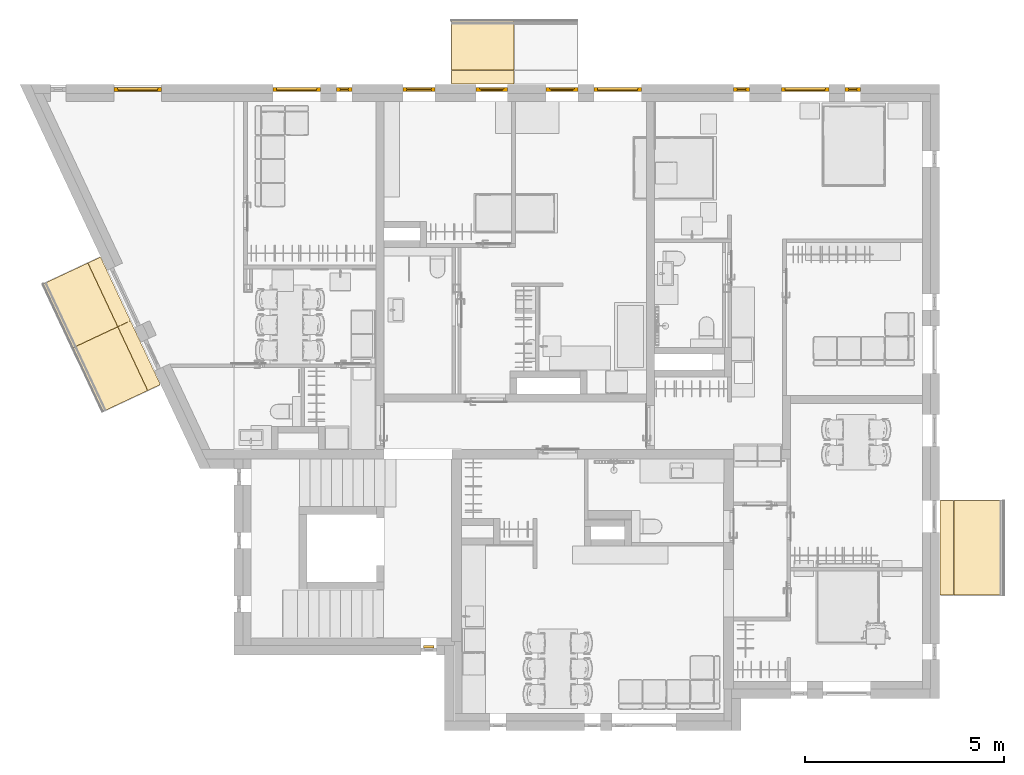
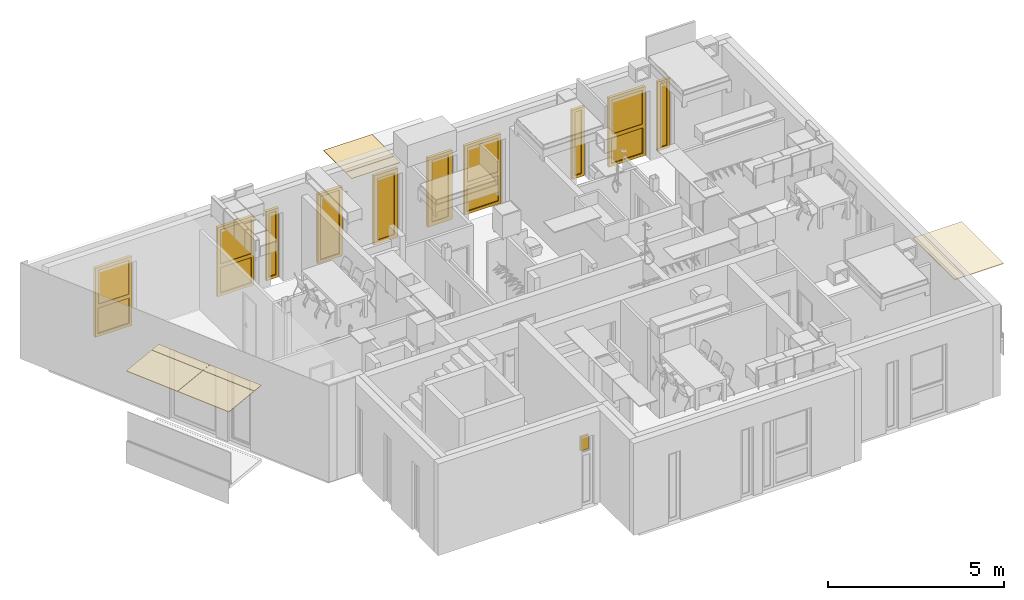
# One storey, part 13 of 68: 11 windows, 7 coverings.
"""IFC2X3 building model written with IfcOpenShell, lengths in millimetres."""

from ifc_helpers import new_model, entity, si_unit, converted_unit, direction, frame, frame_2d, origin, origin_2d_with_axis, place, context, subcontext, project, spatial, polyline, rectangle, outline, extrude, faceted_brep, source, transform, mapped, material, material_list, layer, layer_set, layer_usage, type_object, type_shapes, element, save


model = new_model("IFC2X3")

# Units and contexts
model_context = context("Model", 3, precision=0.01, world=origin(), true_north=direction((6.123233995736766e-17, 1.0)))
plan_context = context("Plan", 3, precision=0.01, world=origin(), true_north=direction((6.123233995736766e-17, 1.0)))
body_context = subcontext(model_context, "Body", "Model", "MODEL_VIEW")
ifc_project = project(units=[si_unit("LENGTHUNIT", "METRE", prefix="MILLI"), converted_unit("PLANEANGLEUNIT", "DEGREE", entity("IfcPlaneAngleMeasure", 0.017453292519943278), si_unit("PLANEANGLEUNIT", "RADIAN"), dimensions=[0, 0, 0, 0, 0, 0, 0]), si_unit("AREAUNIT", "SQUARE_METRE")], contexts=[model_context, plan_context])

# Site, building, storey
site_placement = place(None, origin())
site = spatial("IfcSite", under=ifc_project, at=site_placement, Name="Default", CompositionType="ELEMENT")
building_placement = place(site_placement, origin())
building = spatial("IfcBuilding", under=site, at=building_placement, CompositionType="ELEMENT")
storey_placement = place(building_placement, frame((0.0, 0.0, 6295.0)))
storey = spatial("IfcBuildingStorey", under=building, at=storey_placement, Name="3K", CompositionType="ELEMENT", Elevation=6294.999999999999)

# Windows
ifc_material_1 = material(Name="_K. Klaas. Pakett")
ifc_material_2 = material(Name="_K. Avatäited. Raam. PVC. RAL9005")
ifc_material_3 = material(Name="_K. Avatäited. Raam. PVC. Valge")
ifc_material_list_1 = material_list([ifc_material_1, ifc_material_2, ifc_material_3])
window_style_1 = type_object("IfcWindowStyle", Name="HR_Window_Generic_Rectangle_1x2:A-13.1200x2400.P", ConstructionType="NOTDEFINED", OperationType="NOTDEFINED", ParameterTakesPrecedence=False, Sizeable=False, material=ifc_material_list_1)
shared_shape_1 = source(origin(), body_context, "Body", "Brep", [
    faceted_brep([(78.0, -154.0, 2322.0), (1122.0, -154.0, 2322.0), (1122.0, -154.0, 1101.0), (78.0, -154.0, 1101.0), (1122.0, -179.0, 2322.0), (1122.0, -179.0, 1101.0), (78.0, -179.0, 1101.0), (78.0, -179.0, 2322.0)], [[[0, 1, 2, 3]], [[2, 1, 4, 5]], [[3, 2, 5, 6]], [[0, 3, 6, 7]], [[7, 6, 5, 4]], [[1, 0, 7, 4]]]),
    faceted_brep([(1122.0, -154.0, 2322.0), (1122.0, -154.0, 1101.0), (1122.0, -179.0, 1101.0), (1122.0, -179.0, 2322.0), (1142.0, -134.0, 2342.0), (58.0, -134.0, 2342.0), (58.0, -194.0, 2342.0), (1142.0, -194.0, 2342.0), (98.0, -154.0, 2302.0), (98.0, -134.0, 2302.0), (1102.0, -134.0, 2302.0), (1102.0, -154.0, 2302.0), (98.0, -179.0, 2302.0), (98.0, -194.0, 2302.0), (98.0, -194.0, 1121.0), (98.0, -179.0, 1121.0), (1142.0, -134.0, 1081.0), (1142.0, -194.0, 1081.0), (58.0, -194.0, 1081.0), (58.0, -134.0, 1081.0), (1102.0, -194.0, 2302.0), (1102.0, -194.0, 1121.0), (98.0, -134.0, 1121.0), (1102.0, -134.0, 1121.0), (98.0, -154.0, 1121.0), (1102.0, -154.0, 1121.0), (78.0, -154.0, 1101.0), (78.0, -179.0, 1101.0), (78.0, -154.0, 2322.0), (78.0, -179.0, 2322.0), (1102.0, -179.0, 2302.0), (1102.0, -179.0, 1121.0)], [[[0, 1, 2, 3]], [[4, 5, 6, 7]], [[8, 9, 10, 11]], [[12, 13, 14, 15]], [[16, 17, 18, 19]], [[4, 7, 17, 16]], [[13, 20, 21, 14], [7, 6, 18, 17]], [[6, 5, 19, 18]], [[5, 4, 16, 19], [10, 9, 22, 23]], [[9, 8, 24, 22]], [[25, 23, 22, 24]], [[11, 10, 23, 25]], [[1, 26, 27, 2]], [[26, 28, 29, 27]], [[28, 26, 1, 0], [8, 11, 25, 24]], [[28, 0, 3, 29]], [[20, 30, 31, 21]], [[21, 31, 15, 14]], [[29, 3, 2, 27], [30, 12, 15, 31]], [[13, 12, 30, 20]]], outer=[[True], [True], [True], [True], [True], [True], [False, True], [True], [True, False], [True], [True], [True], [True], [True], [True, False], [True], [True], [True], [True, False], [True]]),
    faceted_brep([(88.0, -194.0, 989.0), (1112.0, -194.0, 989.0), (1112.0, -194.0, 108.0), (88.0, -194.0, 108.0), (1142.0, -194.0, 1019.0), (58.0, -194.0, 1019.0), (58.0, -194.0, 78.0), (1142.0, -194.0, 78.0), (88.0, -159.0, 989.0), (88.0, -159.0, 108.0), (1112.0, -159.0, 108.0), (1142.0, -159.0, 1019.0), (1142.0, -159.0, 78.0), (58.0, -159.0, 78.0), (58.0, -159.0, 1019.0), (1112.0, -159.0, 989.0)], [[[0, 1, 2, 3], [4, 5, 6, 7]], [[8, 0, 3, 9]], [[9, 3, 2, 10]], [[11, 12, 13, 14], [15, 8, 9, 10]], [[1, 15, 10, 2]], [[6, 5, 14, 13]], [[7, 6, 13, 12]], [[4, 7, 12, 11]], [[15, 1, 0, 8]], [[5, 4, 11, 14]]], outer=[[False, True], [True], [True], [True, False], [True], [True], [True], [True], [True], [True]]),
    faceted_brep([(1142.0, -159.0, 1019.0), (58.0, -159.0, 1019.0), (58.0, -159.0, 78.0), (1142.0, -159.0, 78.0), (58.0, -134.0, 1019.0), (58.0, -134.0, 78.0), (1142.0, -134.0, 78.0), (1142.0, -134.0, 1019.0)], [[[0, 1, 2, 3]], [[2, 1, 4, 5]], [[3, 2, 5, 6]], [[0, 3, 6, 7]], [[7, 6, 5, 4]], [[1, 0, 7, 4]]]),
    faceted_brep([(58.0, -134.0, 2342.0), (58.0, -134.0, 1081.0), (1142.0, -134.0, 1081.0), (1142.0, -134.0, 2342.0), (88.0, -134.0, 2312.0), (1112.0, -134.0, 2312.0), (1112.0, -134.0, 1111.0), (88.0, -134.0, 1111.0), (1142.0, -134.0, 1019.0), (1142.0, -134.0, 78.0), (1142.0, -194.0, 78.0), (1142.0, -194.0, 1019.0), (58.0, -134.0, 78.0), (58.0, -134.0, 1019.0), (58.0, -194.0, 1019.0), (58.0, -194.0, 78.0), (1112.0, -100.0, 108.0), (88.0, -100.0, 108.0), (88.0, -134.0, 108.0), (1112.0, -134.0, 108.0), (88.0, -100.0, 989.0), (88.0, -134.0, 989.0), (1112.0, -100.0, 989.0), (1112.0, -134.0, 989.0), (1200.0, -194.0, 2400.0), (0.0, -194.0, 2400.0), (0.0, -194.0, 30.0), (1200.0, -194.0, 30.0), (58.0, -194.0, 2342.0), (1142.0, -194.0, 2342.0), (1142.0, -194.0, 1081.0), (58.0, -194.0, 1081.0), (0.0, -100.0, 2400.0), (0.0, -100.0, 30.0), (0.0, -110.0, 30.0), (0.0, -110.0, 0.0), (0.0, -184.0, 0.0), (0.0, -184.0, 30.0), (1200.0, -184.0, 30.0), (1200.0, -100.0, 2400.0), (1200.0, -184.0, 0.0), (1200.0, -110.0, 0.0), (1200.0, -110.0, 30.0), (1200.0, -100.0, 30.0), (88.0, -100.0, 2312.0), (88.0, -100.0, 1111.0), (1112.0, -100.0, 1111.0), (1112.0, -100.0, 2312.0)], [[[0, 1, 2, 3], [4, 5, 6, 7]], [[8, 9, 10, 11]], [[12, 13, 14, 15]], [[9, 12, 15, 10]], [[16, 17, 18, 19]], [[17, 20, 21, 18]], [[22, 16, 19, 23]], [[11, 10, 15, 14], [24, 25, 26, 27], [28, 29, 30, 31]], [[25, 32, 33, 34, 35, 36, 37, 26]], [[37, 38, 27, 26]], [[39, 24, 27, 38, 40, 41, 42, 43]], [[17, 16, 22, 20], [32, 39, 43, 33], [44, 45, 46, 47]], [[42, 34, 33, 43]], [[34, 42, 41, 35]], [[35, 41, 40, 36]], [[38, 37, 36, 40]], [[25, 24, 39, 32]], [[44, 47, 5, 4]], [[47, 46, 6, 5]], [[45, 44, 4, 7]], [[0, 3, 29, 28]], [[3, 2, 30, 29]], [[13, 8, 11, 14]], [[1, 0, 28, 31]], [[2, 1, 31, 30]], [[46, 45, 7, 6]], [[20, 22, 23, 21]], [[9, 8, 13, 12], [19, 18, 21, 23]]], outer=[[True, False], [True], [True], [True], [True], [True], [True], [False, True, False], [True], [True], [True], [False, True, False], [True], [True], [True], [True], [True], [True], [True], [True], [True], [True], [True], [True], [True], [True], [True], [True, False]]),
])
type_shapes(window_style_1, [shared_shape_1])
for number, where in (
    (1, (-3455.0, 15850.0, 0.0)),
    (2, (545.0, 15850.0, 0.0)),
    (3, (8625.0, 15850.0, 0.0)),
    (4, (13345.0, 15850.0, 0.0)),
):
    element("IfcWindow", number, at=place(storey_placement, frame(where)), inside=storey, type_object=window_style_1, material=ifc_material_list_1, Name="HR_Window_Generic_Rectangle_1x2:A-13.1200x2400.P", ObjectType="HR_Window_Generic_Rectangle_1x2:A-13.1200x2400.P", OverallHeight=2465.0000000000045, OverallWidth=1200.0000000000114, context=body_context, shape_type="MappedRepresentation", body=[
        mapped(shared_shape_1, transform((0.0, 0.0, 0.0), scale=1.0)),
    ])
ifc_material_list_2 = material_list([ifc_material_3, ifc_material_1, ifc_material_2])
window_style_2 = type_object("IfcWindowStyle", Name="HR_Window_Generic_Rectangle_1x1:A-01.400x2400.ma", ConstructionType="NOTDEFINED", OperationType="NOTDEFINED", ParameterTakesPrecedence=False, Sizeable=False, material=ifc_material_list_2)
shared_shape_2 = source(origin(), body_context, "Body", "Brep", [
    faceted_brep([(88.0, -194.0, 2312.0), (312.0, -194.0, 2312.0), (312.0, -194.0, 108.0), (88.0, -194.0, 108.0), (342.0, -194.0, 2342.0), (58.0, -194.0, 2342.0), (58.0, -194.0, 78.0), (342.0, -194.0, 78.0), (88.0, -159.0, 2312.0), (88.0, -159.0, 108.0), (312.0, -159.0, 108.0), (342.0, -159.0, 2342.0), (342.0, -159.0, 78.0), (58.0, -159.0, 78.0), (58.0, -159.0, 2342.0), (312.0, -159.0, 2312.0)], [[[0, 1, 2, 3], [4, 5, 6, 7]], [[8, 0, 3, 9]], [[9, 3, 2, 10]], [[11, 12, 13, 14], [15, 8, 9, 10]], [[1, 15, 10, 2]], [[6, 5, 14, 13]], [[7, 6, 13, 12]], [[4, 7, 12, 11]], [[15, 1, 0, 8]], [[5, 4, 11, 14]]], outer=[[False, True], [True], [True], [True, False], [True], [True], [True], [True], [True], [True]]),
    faceted_brep([(342.0, -159.0, 2342.0), (58.0, -159.0, 2342.0), (58.0, -159.0, 78.0), (342.0, -159.0, 78.0), (58.0, -134.0, 2342.0), (58.0, -134.0, 78.0), (342.0, -134.0, 78.0), (342.0, -134.0, 2342.0)], [[[0, 1, 2, 3]], [[2, 1, 4, 5]], [[3, 2, 5, 6]], [[0, 3, 6, 7]], [[7, 6, 5, 4]], [[1, 0, 7, 4]]]),
    faceted_brep([(342.0, -134.0, 78.0), (58.0, -134.0, 78.0), (58.0, -194.0, 78.0), (342.0, -194.0, 78.0), (58.0, -134.0, 2342.0), (58.0, -194.0, 2342.0), (342.0, -134.0, 2342.0), (342.0, -194.0, 2342.0), (88.0, -100.0, 108.0), (88.0, -100.0, 2312.0), (88.0, -134.0, 2312.0), (88.0, -134.0, 108.0), (312.0, -100.0, 108.0), (312.0, -134.0, 108.0), (312.0, -100.0, 2312.0), (312.0, -134.0, 2312.0), (0.0, -100.0, 2400.0), (400.0, -100.0, 2400.0), (400.0, -100.0, 30.0), (0.0, -100.0, 30.0), (400.0, -194.0, 2400.0), (0.0, -194.0, 2400.0), (0.0, -194.0, 30.0), (400.0, -194.0, 30.0), (0.0, -110.0, 30.0), (0.0, -110.0, 0.0), (0.0, -184.0, 0.0), (0.0, -184.0, 30.0), (400.0, -184.0, 30.0), (400.0, -184.0, 0.0), (400.0, -110.0, 0.0), (400.0, -110.0, 30.0)], [[[0, 1, 2, 3]], [[1, 4, 5, 2]], [[6, 0, 3, 7]], [[8, 9, 10, 11]], [[12, 8, 11, 13]], [[14, 12, 13, 15]], [[16, 17, 18, 19], [9, 8, 12, 14]], [[20, 21, 22, 23], [7, 3, 2, 5]], [[21, 16, 19, 24, 25, 26, 27, 22]], [[27, 28, 23, 22]], [[17, 20, 23, 28, 29, 30, 31, 18]], [[31, 24, 19, 18]], [[24, 31, 30, 25]], [[25, 30, 29, 26]], [[28, 27, 26, 29]], [[4, 6, 7, 5]], [[9, 14, 15, 10]], [[21, 20, 17, 16]], [[10, 15, 13, 11], [0, 6, 4, 1]]], outer=[[True], [True], [True], [True], [True], [True], [True, False], [True, False], [True], [True], [True], [True], [True], [True], [True], [True], [True], [True], [False, True]]),
])
type_shapes(window_style_2, [shared_shape_2])
for number, where in (
    (5, (2145.0, 15850.0, 0.0)),
    (6, (12145.0, 15850.0, 0.0)),
    (7, (14945.0, 15850.0, 0.0)),
):
    element("IfcWindow", number, at=place(storey_placement, frame(where)), inside=storey, type_object=window_style_2, material=ifc_material_list_2, Name="HR_Window_Generic_Rectangle_1x1:A-01.400x2400.ma", ObjectType="HR_Window_Generic_Rectangle_1x1:A-01.400x2400.ma", OverallHeight=2465.0000000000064, OverallWidth=400.0000000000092, context=body_context, shape_type="MappedRepresentation", body=[
        mapped(shared_shape_2, transform((0.0, 0.0, 0.0), scale=1.0)),
    ])
window_style_3 = type_object("IfcWindowStyle", Name="HR_Window_Generic_Rectangle_1x1:A-02. 800x2400. ma", ConstructionType="NOTDEFINED", OperationType="NOTDEFINED", ParameterTakesPrecedence=False, Sizeable=False, material=ifc_material_list_2)
shared_shape_3 = source(origin(), body_context, "Body", "Brep", [
    faceted_brep([(88.0, -194.0, 2312.0), (712.0, -194.0, 2312.0), (712.0, -194.0, 108.0), (88.0, -194.0, 108.0), (742.0, -194.0, 2342.0), (58.0, -194.0, 2342.0), (58.0, -194.0, 78.0), (742.0, -194.0, 78.0), (88.0, -159.0, 2312.0), (88.0, -159.0, 108.0), (712.0, -159.0, 108.0), (742.0, -159.0, 2342.0), (742.0, -159.0, 78.0), (58.0, -159.0, 78.0), (58.0, -159.0, 2342.0), (712.0, -159.0, 2312.0)], [[[0, 1, 2, 3], [4, 5, 6, 7]], [[8, 0, 3, 9]], [[9, 3, 2, 10]], [[11, 12, 13, 14], [15, 8, 9, 10]], [[1, 15, 10, 2]], [[6, 5, 14, 13]], [[7, 6, 13, 12]], [[4, 7, 12, 11]], [[15, 1, 0, 8]], [[5, 4, 11, 14]]], outer=[[False, True], [True], [True], [True, False], [True], [True], [True], [True], [True], [True]]),
    faceted_brep([(742.0, -159.0, 2342.0), (58.0, -159.0, 2342.0), (58.0, -159.0, 78.0), (742.0, -159.0, 78.0), (58.0, -134.0, 2342.0), (58.0, -134.0, 78.0), (742.0, -134.0, 78.0), (742.0, -134.0, 2342.0)], [[[0, 1, 2, 3]], [[2, 1, 4, 5]], [[3, 2, 5, 6]], [[0, 3, 6, 7]], [[7, 6, 5, 4]], [[1, 0, 7, 4]]]),
    faceted_brep([(742.0, -134.0, 78.0), (58.0, -134.0, 78.0), (58.0, -194.0, 78.0), (742.0, -194.0, 78.0), (58.0, -134.0, 2342.0), (58.0, -194.0, 2342.0), (742.0, -134.0, 2342.0), (742.0, -194.0, 2342.0), (88.0, -100.0, 108.0), (88.0, -100.0, 2312.0), (88.0, -134.0, 2312.0), (88.0, -134.0, 108.0), (712.0, -100.0, 108.0), (712.0, -134.0, 108.0), (712.0, -100.0, 2312.0), (712.0, -134.0, 2312.0), (0.0, -100.0, 2400.0), (800.0, -100.0, 2400.0), (800.0, -100.0, 30.0), (0.0, -100.0, 30.0), (800.0, -194.0, 2400.0), (0.0, -194.0, 2400.0), (0.0, -194.0, 30.0), (800.0, -194.0, 30.0), (0.0, -110.0, 30.0), (0.0, -110.0, 0.0), (0.0, -184.0, 0.0), (0.0, -184.0, 30.0), (800.0, -184.0, 30.0), (800.0, -184.0, 0.0), (800.0, -110.0, 0.0), (800.0, -110.0, 30.0)], [[[0, 1, 2, 3]], [[1, 4, 5, 2]], [[6, 0, 3, 7]], [[8, 9, 10, 11]], [[12, 8, 11, 13]], [[14, 12, 13, 15]], [[16, 17, 18, 19], [9, 8, 12, 14]], [[20, 21, 22, 23], [7, 3, 2, 5]], [[21, 16, 19, 24, 25, 26, 27, 22]], [[27, 28, 23, 22]], [[17, 20, 23, 28, 29, 30, 31, 18]], [[31, 24, 19, 18]], [[24, 31, 30, 25]], [[25, 30, 29, 26]], [[28, 27, 26, 29]], [[4, 6, 7, 5]], [[9, 14, 15, 10]], [[21, 20, 17, 16]], [[10, 15, 13, 11], [0, 6, 4, 1]]], outer=[[True], [True], [True], [True], [True], [True], [True, False], [True, False], [True], [True], [True], [True], [True], [True], [True], [True], [True], [True], [False, True]]),
])
type_shapes(window_style_3, [shared_shape_3])
window_1_placement = place(storey_placement, frame((3825.0, 15850.0, 0.0)))
element("IfcWindow", 8, at=window_1_placement, inside=storey, type_object=window_style_3, material=ifc_material_list_2, Name="HR_Window_Generic_Rectangle_1x1:A-02. 800x2400. ma", ObjectType="HR_Window_Generic_Rectangle_1x1:A-02. 800x2400. ma", OverallHeight=2465.0000000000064, OverallWidth=800.000000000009, context=body_context, shape_type="MappedRepresentation", body=[
    mapped(shared_shape_3, transform((0.0, 0.0, 0.0), scale=1.0)),
])
ifc_material_list_3 = material_list([ifc_material_1, ifc_material_2])
window_style_4 = type_object("IfcWindowStyle", Name="HR_Window_Generic_Rectangle_1x1:A-10.800x2400.P", ConstructionType="NOTDEFINED", OperationType="NOTDEFINED", ParameterTakesPrecedence=False, Sizeable=False, material=ifc_material_list_3)
shared_shape_4 = source(origin(), body_context, "Body", "Brep", [
    faceted_brep([(108.0, -154.0, 2292.0), (692.0, -154.0, 2292.0), (692.0, -154.0, 128.0), (108.0, -154.0, 128.0), (692.0, -179.0, 2292.0), (692.0, -179.0, 128.0), (108.0, -179.0, 128.0), (108.0, -179.0, 2292.0)], [[[0, 1, 2, 3]], [[2, 1, 4, 5]], [[3, 2, 5, 6]], [[0, 3, 6, 7]], [[7, 6, 5, 4]], [[1, 0, 7, 4]]]),
    faceted_brep([(692.0, -154.0, 2292.0), (692.0, -154.0, 128.0), (692.0, -179.0, 128.0), (692.0, -179.0, 2292.0), (742.0, -134.0, 2342.0), (58.0, -134.0, 2342.0), (58.0, -194.0, 2342.0), (742.0, -194.0, 2342.0), (128.0, -154.0, 2272.0), (128.0, -134.0, 2272.0), (672.0, -134.0, 2272.0), (672.0, -154.0, 2272.0), (128.0, -179.0, 2272.0), (128.0, -194.0, 2272.0), (128.0, -194.0, 148.0), (128.0, -179.0, 148.0), (742.0, -134.0, 78.0), (742.0, -194.0, 78.0), (58.0, -194.0, 78.0), (58.0, -134.0, 78.0), (672.0, -194.0, 2272.0), (672.0, -194.0, 148.0), (128.0, -134.0, 148.0), (672.0, -134.0, 148.0), (128.0, -154.0, 148.0), (672.0, -154.0, 148.0), (108.0, -154.0, 128.0), (108.0, -179.0, 128.0), (108.0, -154.0, 2292.0), (108.0, -179.0, 2292.0), (672.0, -179.0, 2272.0), (672.0, -179.0, 148.0)], [[[0, 1, 2, 3]], [[4, 5, 6, 7]], [[8, 9, 10, 11]], [[12, 13, 14, 15]], [[16, 17, 18, 19]], [[4, 7, 17, 16]], [[13, 20, 21, 14], [7, 6, 18, 17]], [[6, 5, 19, 18]], [[5, 4, 16, 19], [10, 9, 22, 23]], [[9, 8, 24, 22]], [[25, 23, 22, 24]], [[11, 10, 23, 25]], [[1, 26, 27, 2]], [[26, 28, 29, 27]], [[28, 26, 1, 0], [8, 11, 25, 24]], [[28, 0, 3, 29]], [[20, 30, 31, 21]], [[21, 31, 15, 14]], [[29, 3, 2, 27], [30, 12, 15, 31]], [[13, 12, 30, 20]]], outer=[[True], [True], [True], [True], [True], [True], [False, True], [True], [True, False], [True], [True], [True], [True], [True], [True, False], [True], [True], [True], [True, False], [True]]),
    faceted_brep([(742.0, -134.0, 78.0), (58.0, -134.0, 78.0), (58.0, -194.0, 78.0), (742.0, -194.0, 78.0), (58.0, -134.0, 2342.0), (58.0, -194.0, 2342.0), (742.0, -134.0, 2342.0), (742.0, -194.0, 2342.0), (88.0, -100.0, 108.0), (88.0, -100.0, 2312.0), (88.0, -134.0, 2312.0), (88.0, -134.0, 108.0), (712.0, -100.0, 108.0), (712.0, -134.0, 108.0), (712.0, -100.0, 2312.0), (712.0, -134.0, 2312.0), (0.0, -100.0, 2400.0), (800.0, -100.0, 2400.0), (800.0, -100.0, 30.0), (0.0, -100.0, 30.0), (800.0, -194.0, 2400.0), (0.0, -194.0, 2400.0), (0.0, -194.0, 30.0), (800.0, -194.0, 30.0), (0.0, -110.0, 30.0), (0.0, -110.0, 0.0), (0.0, -184.0, 0.0), (0.0, -184.0, 30.0), (800.0, -184.0, 30.0), (800.0, -184.0, 0.0), (800.0, -110.0, 0.0), (800.0, -110.0, 30.0)], [[[0, 1, 2, 3]], [[1, 4, 5, 2]], [[6, 0, 3, 7]], [[8, 9, 10, 11]], [[12, 8, 11, 13]], [[14, 12, 13, 15]], [[16, 17, 18, 19], [9, 8, 12, 14]], [[20, 21, 22, 23], [7, 3, 2, 5]], [[21, 16, 19, 24, 25, 26, 27, 22]], [[27, 28, 23, 22]], [[17, 20, 23, 28, 29, 30, 31, 18]], [[31, 24, 19, 18]], [[24, 31, 30, 25]], [[25, 30, 29, 26]], [[28, 27, 26, 29]], [[4, 6, 7, 5]], [[9, 14, 15, 10]], [[21, 20, 17, 16]], [[10, 15, 13, 11], [0, 6, 4, 1]]], outer=[[True], [True], [True], [True], [True], [True], [True, False], [True, False], [True], [True], [True], [True], [True], [True], [True], [True], [True], [True], [False, True]]),
])
type_shapes(window_style_4, [shared_shape_4])
window_2_placement = place(storey_placement, frame((5655.0, 15850.0, 0.0)))
element("IfcWindow", 9, at=window_2_placement, inside=storey, type_object=window_style_4, material=ifc_material_list_3, Name="HR_Window_Generic_Rectangle_1x1:A-10.800x2400.P", ObjectType="HR_Window_Generic_Rectangle_1x1:A-10.800x2400.P", OverallHeight=2465.0000000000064, OverallWidth=800.000000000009, context=body_context, shape_type="MappedRepresentation", body=[
    mapped(shared_shape_4, transform((0.0, 0.0, 0.0), scale=1.0)),
])
window_style_5 = type_object("IfcWindowStyle", Name="HR_Window_Generic_Rectangle_1x1:A-09.800x2400.V", ConstructionType="NOTDEFINED", OperationType="NOTDEFINED", ParameterTakesPrecedence=False, Sizeable=False, material=ifc_material_list_3)
shared_shape_5 = source(origin(), body_context, "Body", "Brep", [
    faceted_brep([(108.0, -154.0, 2292.0), (692.0, -154.0, 2292.0), (692.0, -154.0, 128.0), (108.0, -154.0, 128.0), (692.0, -179.0, 2292.0), (692.0, -179.0, 128.0), (108.0, -179.0, 128.0), (108.0, -179.0, 2292.0)], [[[0, 1, 2, 3]], [[2, 1, 4, 5]], [[3, 2, 5, 6]], [[0, 3, 6, 7]], [[7, 6, 5, 4]], [[1, 0, 7, 4]]]),
    faceted_brep([(742.0, -134.0, 78.0), (742.0, -194.0, 78.0), (58.0, -194.0, 78.0), (58.0, -134.0, 78.0), (742.0, -134.0, 2342.0), (742.0, -194.0, 2342.0), (128.0, -194.0, 2272.0), (672.0, -194.0, 2272.0), (672.0, -194.0, 148.0), (128.0, -194.0, 148.0), (58.0, -194.0, 2342.0), (58.0, -134.0, 2342.0), (672.0, -134.0, 2272.0), (128.0, -134.0, 2272.0), (128.0, -134.0, 148.0), (672.0, -134.0, 148.0), (128.0, -154.0, 2272.0), (128.0, -154.0, 148.0), (672.0, -154.0, 148.0), (672.0, -154.0, 2272.0), (692.0, -154.0, 2292.0), (692.0, -154.0, 128.0), (692.0, -179.0, 128.0), (692.0, -179.0, 2292.0), (108.0, -154.0, 128.0), (108.0, -179.0, 128.0), (108.0, -154.0, 2292.0), (108.0, -179.0, 2292.0), (672.0, -179.0, 2272.0), (672.0, -179.0, 148.0), (128.0, -179.0, 148.0), (128.0, -179.0, 2272.0)], [[[0, 1, 2, 3]], [[4, 5, 1, 0]], [[6, 7, 8, 9], [5, 10, 2, 1]], [[10, 11, 3, 2]], [[12, 13, 14, 15], [11, 4, 0, 3]], [[13, 16, 17, 14]], [[18, 15, 14, 17]], [[19, 12, 15, 18]], [[20, 21, 22, 23]], [[21, 24, 25, 22]], [[24, 26, 27, 25]], [[26, 24, 21, 20], [16, 19, 18, 17]], [[4, 11, 10, 5]], [[16, 13, 12, 19]], [[26, 20, 23, 27]], [[7, 28, 29, 8]], [[8, 29, 30, 9]], [[31, 6, 9, 30]], [[27, 23, 22, 25], [28, 31, 30, 29]], [[6, 31, 28, 7]]], outer=[[True], [True], [False, True], [True], [False, True], [True], [True], [True], [True], [True], [True], [True, False], [True], [True], [True], [True], [True], [True], [True, False], [True]]),
    faceted_brep([(742.0, -134.0, 78.0), (58.0, -134.0, 78.0), (58.0, -194.0, 78.0), (742.0, -194.0, 78.0), (58.0, -134.0, 2342.0), (58.0, -194.0, 2342.0), (742.0, -134.0, 2342.0), (742.0, -194.0, 2342.0), (88.0, -100.0, 108.0), (88.0, -100.0, 2312.0), (88.0, -134.0, 2312.0), (88.0, -134.0, 108.0), (712.0, -100.0, 108.0), (712.0, -134.0, 108.0), (712.0, -100.0, 2312.0), (712.0, -134.0, 2312.0), (0.0, -100.0, 2400.0), (800.0, -100.0, 2400.0), (800.0, -100.0, 30.0), (0.0, -100.0, 30.0), (800.0, -194.0, 2400.0), (0.0, -194.0, 2400.0), (0.0, -194.0, 30.0), (800.0, -194.0, 30.0), (0.0, -110.0, 30.0), (0.0, -110.0, 0.0), (0.0, -184.0, 0.0), (0.0, -184.0, 30.0), (800.0, -184.0, 30.0), (800.0, -184.0, 0.0), (800.0, -110.0, 0.0), (800.0, -110.0, 30.0)], [[[0, 1, 2, 3]], [[1, 4, 5, 2]], [[6, 0, 3, 7]], [[8, 9, 10, 11]], [[12, 8, 11, 13]], [[14, 12, 13, 15]], [[16, 17, 18, 19], [9, 8, 12, 14]], [[20, 21, 22, 23], [7, 3, 2, 5]], [[21, 16, 19, 24, 25, 26, 27, 22]], [[27, 28, 23, 22]], [[17, 20, 23, 28, 29, 30, 31, 18]], [[31, 24, 19, 18]], [[24, 31, 30, 25]], [[25, 30, 29, 26]], [[28, 27, 26, 29]], [[4, 6, 7, 5]], [[9, 14, 15, 10]], [[21, 20, 17, 16]], [[10, 15, 13, 11], [0, 6, 4, 1]]], outer=[[True], [True], [True], [True], [True], [True], [True, False], [True, False], [True], [True], [True], [True], [True], [True], [True], [True], [True], [True], [False, True]]),
])
type_shapes(window_style_5, [shared_shape_5])
window_3_placement = place(storey_placement, frame((7425.0, 15850.0, 0.0)))
element("IfcWindow", 10, at=window_3_placement, inside=storey, type_object=window_style_5, material=ifc_material_list_3, Name="HR_Window_Generic_Rectangle_1x1:A-09.800x2400.V", ObjectType="HR_Window_Generic_Rectangle_1x1:A-09.800x2400.V", OverallHeight=2465.0000000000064, OverallWidth=800.000000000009, context=body_context, shape_type="MappedRepresentation", body=[
    mapped(shared_shape_5, transform((0.0, 0.0, 0.0), scale=1.0)),
])
window_style_6 = type_object("IfcWindowStyle", Name="Infill_Glazing_W-ALU_Rectangle_Triple:Fixed. Tumm", ConstructionType="NOTDEFINED", OperationType="NOTDEFINED", ParameterTakesPrecedence=False, Sizeable=False, material=ifc_material_2)
shared_shape_6 = source(origin(), body_context, "Body", "Brep", [
    faceted_brep([(-130.50000000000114, -90.0, 469.49999999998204), (-130.50000000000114, -90.0, -18.499999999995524), (130.4999999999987, -90.0, -18.499999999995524), (130.4999999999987, -90.0, 469.49999999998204), (-130.50000000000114, -50.0, 469.49999999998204), (130.4999999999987, -50.0, 469.49999999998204), (130.4999999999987, -50.0, -18.499999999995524), (-130.50000000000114, -50.0, -18.499999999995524)], [[[0, 1, 2, 3]], [[4, 5, 6, 7]], [[1, 0, 4, 7]], [[2, 1, 7, 6]], [[3, 2, 6, 5]], [[0, 3, 5, 4]]]),
    faceted_brep([(130.5000000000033, -90.0, -18.499999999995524), (130.5000000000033, -112.0, -18.499999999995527), (-130.49999999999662, -112.0, -18.499999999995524), (-130.49999999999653, -90.0, -18.49999999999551), (-130.49999999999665, -112.0, 469.49999999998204), (-130.4999999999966, -90.0, 469.4999999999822), (130.50000000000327, -112.0, 469.49999999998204), (-117.89488223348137, -112.0, 456.89488223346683), (117.894882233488, -112.0, 456.89488223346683), (117.89488223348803, -112.0, -5.894882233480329), (-117.89488223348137, -112.0, -5.894882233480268), (-112.0, -90.0, 0.0), (112.0, -90.0, 0.0), (112.0, -90.0, 451.0), (-112.0, -90.0, 451.0), (130.5000000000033, -90.0, 469.49999999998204)], [[[0, 1, 2, 3]], [[3, 2, 4, 5]], [[2, 1, 6, 4], [7, 8, 9, 10]], [[11, 12, 13, 14], [5, 15, 0, 3]], [[9, 12, 11, 10]], [[10, 11, 14, 7]], [[15, 6, 1, 0]], [[8, 13, 12, 9]], [[5, 4, 6, 15]], [[7, 14, 13, 8]]], outer=[[True], [True], [True, False], [False, True], [True], [True], [True], [True], [True], [True]]),
])
type_shapes(window_style_6, [shared_shape_6])
window_4_placement = place(storey_placement, frame((4470.0, 1597.0, 1861.0), z_axis=(0.0, 0.0, 1.0), x_axis=(-1.0, 0.0, 0.0)))
element("IfcWindow", 11, at=window_4_placement, inside=storey, type_object=window_style_6, material=ifc_material_2, Name="Infill_Glazing_W-ALU_Rectangle_Triple:Fixed. Tumm", ObjectType="Infill_Glazing_W-ALU_Rectangle_Triple:Fixed. Tumm", OverallHeight=111.99999999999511, OverallWidth=261.00000000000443, context=body_context, shape_type="MappedRepresentation", body=[
    mapped(shared_shape_6, transform((0.0, 0.0, 0.0), scale=1.0)),
])

# Coverings
ifc_material_4 = material(Name="_K. Õhk. Roov. Fassaadikatte alusroov. Horisontaalne. 25 mm")
ifc_layer_1 = layer(ifc_material_4, 16.0)
ifc_material_5 = material(Name="_K. Välisviimistlus. Alumiinium-komposiitplaat")
ifc_layer_2 = layer(ifc_material_5, 4.0)
ifc_layer_set = layer_set([ifc_layer_1, ifc_layer_2], Name="Compound Ceiling:Valge rõdud")
ifc_layer_usage_1 = layer_usage(ifc_layer_set, "AXIS3", "NEGATIVE", 20.0)
covering_type = type_object("IfcCoveringType", Name="Compound Ceiling:Valge rõdud", PredefinedType="CEILING")
covering_1_placement = place(storey_placement, frame((17692.0, 2971.986588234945, 2407.4999999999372)))
element("IfcCovering", 12, at=covering_1_placement, inside=storey, type_object=covering_type, material=ifc_layer_usage_1, Name="Compound Ceiling:Valge rõdud", ObjectType="Compound Ceiling:Valge rõdud", PredefinedType="CEILING", context=body_context, shape_type="SweptSolid", body=[
    extrude(rectangle(XDim=1249.9999999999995, YDim=2379.366823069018, at=frame_2d((1.1368683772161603e-12, -2.3874235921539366e-12), x_axis=(1.0, 0.0))), frame((625.0, 1189.6834115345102, 0.0), z_axis=(0.0, 0.0, 1.0), x_axis=(-1.0, 0.0, 0.0)), (0.0, 0.0, 1.0), 19.999999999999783),
])
ifc_layer_usage_2 = layer_usage(ifc_layer_set, "AXIS3", "NEGATIVE", 20.0)
covering_2_placement = place(storey_placement, frame((17338.0, 2971.986588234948, 2407.4999999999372)))
element("IfcCovering", 13, at=covering_2_placement, inside=storey, type_object=covering_type, material=ifc_layer_usage_2, Name="Compound Ceiling:Valge rõdud", ObjectType="Compound Ceiling:Valge rõdud", PredefinedType="CEILING", context=body_context, shape_type="SweptSolid", body=[
    extrude(rectangle(XDim=348.9999999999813, YDim=2379.3668230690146, at=frame_2d((0.0, -5.684341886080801e-13), x_axis=(1.0, 0.0))), frame((174.49999999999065, 1189.6834115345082, 0.0), z_axis=(0.0, 0.0, 1.0), x_axis=(-1.0, 0.0, 0.0)), (0.0, 0.0, 1.0), 19.999999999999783),
])
ifc_layer_usage_3 = layer_usage(ifc_layer_set, "AXIS3", "NEGATIVE", 20.0)
covering_3_placement = place(storey_placement, frame((-5243.6188842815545, 9200.071339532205, 2407.500000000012)))
element("IfcCovering", 14, at=covering_3_placement, inside=storey, type_object=covering_type, material=ifc_layer_usage_3, Name="Compound Ceiling:Valge rõdud", ObjectType="Compound Ceiling:Valge rõdud", PredefinedType="CEILING", context=body_context, shape_type="SweptSolid", body=[
    extrude(outline(polyline([(-625.0, -885.2277105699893), (625.0, -885.2277105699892), (625.0, 885.2246561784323), (-625.0, 885.2307649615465), (-625.0, -885.2277105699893)])), frame((941.6350701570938, 1066.808978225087, 0.0), z_axis=(0.0, 0.0, 1.0), x_axis=(0.9054578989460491, 0.42443608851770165, 0.0)), (0.0, 0.0, 1.0), 19.999999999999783),
])
ifc_layer_usage_4 = layer_usage(ifc_layer_set, "AXIS3", "NEGATIVE", 20.0)
covering_4_placement = place(storey_placement, frame((-4107.266617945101, 8125.138068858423, 2407.500000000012)))
element("IfcCovering", 15, at=covering_4_placement, inside=storey, type_object=covering_type, material=ifc_layer_usage_4, Name="Compound Ceiling:Valge rõdud", ObjectType="Compound Ceiling:Valge rõdud", PredefinedType="CEILING", context=body_context, shape_type="SweptSolid", body=[
    extrude(outline(polyline([(-175.01463098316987, -885.2257435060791), (175.00597873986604, -885.2257435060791), (175.01463097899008, 885.2248882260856), (-175.00597873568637, 885.2265987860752), (-175.01463098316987, -885.2257435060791)])), frame((1287.7537691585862, 875.816105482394, 0.0), z_axis=(0.0, 0.0, 1.0), x_axis=(0.9054558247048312, 0.42444051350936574, 0.0)), (0.0, 0.0, 1.0), 19.99999999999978),
    extrude(outline(polyline([(-175.0103048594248, -885.2257435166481), (175.01030485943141, -885.2257435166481), (175.0103048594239, 885.2248882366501), (-175.01030485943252, 885.2265987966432), (-175.0103048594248, -885.2257435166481)])), frame((534.1865779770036, 2483.4158928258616, 0.0), z_axis=(0.0, 0.0, 1.0), x_axis=(0.9054578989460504, 0.4244360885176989, 0.0)), (0.0, 0.0, 1.0), 19.999999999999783),
])
ifc_layer_usage_5 = layer_usage(ifc_layer_set, "AXIS3", "NEGATIVE", 20.0)
covering_5_placement = place(storey_placement, frame((-4490.0487269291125, 7592.465224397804, 2407.500000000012)))
element("IfcCovering", 16, at=covering_5_placement, inside=storey, type_object=covering_type, material=ifc_layer_usage_5, Name="Compound Ceiling:Valge rõdud", ObjectType="Compound Ceiling:Valge rõdud", PredefinedType="CEILING", context=body_context, shape_type="SweptSolid", body=[
    extrude(outline(polyline([(-885.2277105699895, -625.0), (885.2307649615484, -625.0), (885.2246561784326, 625.0), (-885.2277105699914, 625.0), (-885.2277105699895, -625.0)])), frame((941.6337737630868, 1066.8117438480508, 0.0), z_axis=(0.0, 0.0, 1.0), x_axis=(0.42443608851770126, -0.9054578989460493, 0.0)), (0.0, 0.0, 1.0), 19.999999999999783),
])
ifc_layer_usage_6 = layer_usage(ifc_layer_set, "AXIS3", "NEGATIVE", 20.0)
covering_6_placement = place(storey_placement, frame((5040.416588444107, 16192.0, 2407.499999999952)))
element("IfcCovering", 17, at=covering_6_placement, inside=storey, type_object=covering_type, material=ifc_layer_usage_6, Name="Compound Ceiling:Valge rõdud", ObjectType="Compound Ceiling:Valge rõdud", PredefinedType="CEILING", context=body_context, shape_type="SweptSolid", body=[
    extrude(rectangle(XDim=1582.2917057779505, YDim=1249.9999999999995, at=frame_2d((-1.6484591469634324e-12, 1.1368683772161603e-12), x_axis=(1.0, 0.0))), frame((791.145852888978, 625.0, 0.0)), (0.0, 0.0, 1.0), 19.999999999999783),
])
ifc_layer_usage_7 = layer_usage(ifc_layer_set, "AXIS3", "NEGATIVE", 20.0)
covering_7_placement = place(storey_placement, frame((5040.416588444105, 15838.0, 2407.499999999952)))
element("IfcCovering", 18, at=covering_7_placement, inside=storey, type_object=covering_type, material=ifc_layer_usage_7, Name="Compound Ceiling:Valge rõdud", ObjectType="Compound Ceiling:Valge rõdud", PredefinedType="CEILING", context=body_context, shape_type="SweptSolid", body=[
    extrude(rectangle(XDim=1582.2917057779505, YDim=348.9999999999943, at=origin_2d_with_axis()), frame((791.1458528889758, 174.49999999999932, 0.0)), (0.0, 0.0, 1.0), 19.999999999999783),
])

save(model, "model.ifc")
